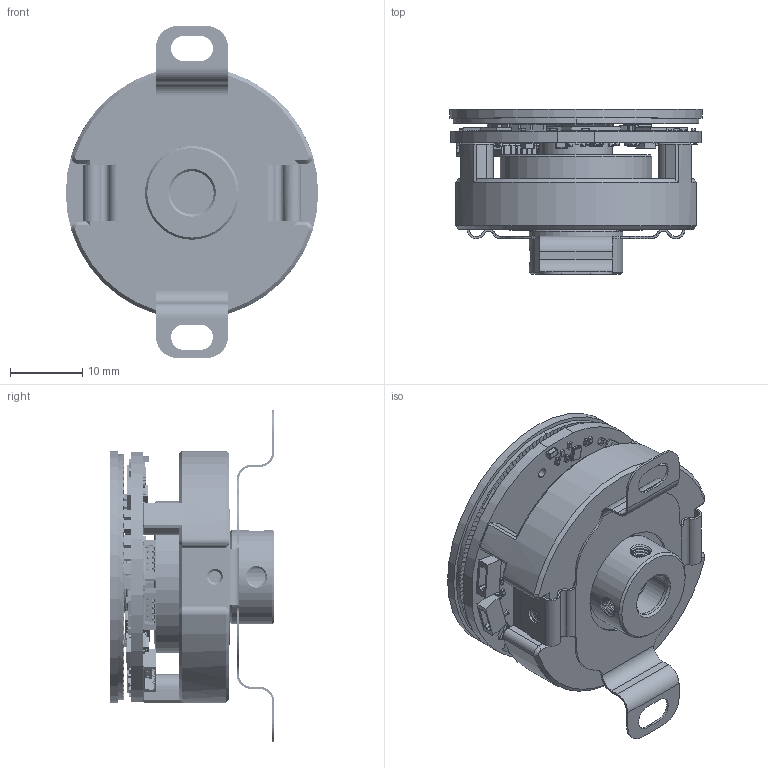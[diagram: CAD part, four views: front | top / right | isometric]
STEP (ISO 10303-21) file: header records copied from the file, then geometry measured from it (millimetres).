
FILE_DESCRIPTION((''),'2;1');
FILE_NAME('EAS-034-H_______ASM_13_ASM','2025-05-26T',('Administrator'),(''),'PRO/ENGINEER BY PARAMETRIC TECHNOLOGY CORPORATION, 2014000','PRO/ENGINEER BY PARAMETRIC TECHNOLOGY CORPORATION, 2014000','');
FILE_SCHEMA(('CONFIG_CONTROL_DESIGN'));
Length unit declared in the file: millimetre
Products named in the file (707): 翋_2___9; PRT0002_1_1_1; PRODUCT_25366_13_1_2_21; 婥_1___4; PRT0003_1_1_4; 码盘_A_1_A_1_ASM; PRT0004_2_5_7; _______ASM_11_ASM_1_ASM_2_ASM_2_ASM; ___________ASM_2_ASM_2_ASM_1_ASM; BOARD_2_1_1; OPEN_CASCADE_STEP_TRANSLAT-1936; OPEN_CASCADE_STEP_TRANSLAT-2409; TERMINAL-1922_ASM_1_ASM_1_ASM_1_ASM; OPEN_CASCADE_STEP_TRANSLAT-2905; MID_BODY-2895_ASM_1_ASM_1_ASM_1_ASM; 828048944_ASM_1_ASM_1_ASM_1_ASM; C50_ASM_2_ASM_1_ASM_1_ASM; MID_BODY-4003_1_1_1; OPEN_CASCADE_STEP_TRANSLAT-4189; TERMINAL-4179_ASM_1_ASM_1_ASM_1_ASM; MARK-4501_1_1_1; 776163760_ASM_1_ASM_1_ASM_1_ASM; ASM0464_ASM_2_ASM_1_ASM_1_ASM; MID_BODY-1198_1_1_1; OPEN_CASCADE_STEP_TRANSLAT-1384; TERMINAL-1374_ASM_1_ASM_1_ASM_1_ASM; MARK-1696_1_1_1; 776163632_ASM_1_ASM_1_ASM_1_ASM; ASM0465_ASM_2_ASM_1_ASM_1_ASM; MID_BODY-4756_1_1_1; OPEN_CASCADE_STEP_TRANSLAT-4942; TERMINAL-4932_ASM_1_ASM_1_ASM_1_ASM; MARK-5254_1_1_1; 776171696_ASM_1_ASM_1_ASM_1_ASM; ASM0466_ASM_2_ASM_1_ASM_1_ASM; OPEN_CASCADE_STEP_TRANSLAT-5494; OPEN_CASCADE_STEP_TRANSLAT-5967; TERMINAL-5480_ASM_1_ASM_1_ASM_1_ASM; OPEN_CASCADE_STEP_TRANSLAT-6463; MID_BODY-6453_ASM_1_ASM_1_ASM_1_ASM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
Assembly tree (809 placements, depth 10):
  EAS-034-H_______ASM_13_ASM
    ___________ASM_2_ASM_2_ASM_1_ASM
      _______ASM_11_ASM_1_ASM_2_ASM_2_ASM
        翋_2___9
        PRT0002_1_1_1  x2
        PRODUCT_25366_13_1_2_21
        码盘_A_1_A_1_ASM
          婥_1___4
          PRT0003_1_1_4
        PRT0004_2_5_7
    PCB_EAS-033_ASM_1_ASM_1_ASM
      PCB_EAS-033-AS-V2_1_2__ASM_1_AS_ASM
        ASM0462_ASM_3_ASM_1_ASM_1_ASM
          BOARD_2_1_1
          C50_ASM_2_ASM_1_ASM_1_ASM
            828048944_ASM_1_ASM_1_ASM_1_ASM
              TERMINAL-1922_ASM_1_ASM_1_ASM_1_ASM
                OPEN_CASCADE_STEP_TRANSLAT-1936
                OPEN_CASCADE_STEP_TRANSLAT-2409
              MID_BODY-2895_ASM_1_ASM_1_ASM_1_ASM
                OPEN_CASCADE_STEP_TRANSLAT-2905
          ASM0464_ASM_2_ASM_1_ASM_1_ASM
            776163760_ASM_1_ASM_1_ASM_1_ASM
              MID_BODY-4003_1_1_1
              TERMINAL-4179_ASM_1_ASM_1_ASM_1_ASM  x2
                OPEN_CASCADE_STEP_TRANSLAT-4189
              MARK-4501_1_1_1
          ASM0465_ASM_2_ASM_1_ASM_1_ASM
            776163632_ASM_1_ASM_1_ASM_1_ASM
              MID_BODY-1198_1_1_1
              TERMINAL-1374_ASM_1_ASM_1_ASM_1_ASM  x2
                OPEN_CASCADE_STEP_TRANSLAT-1384
              MARK-1696_1_1_1
          ASM0466_ASM_2_ASM_1_ASM_1_ASM
            776171696_ASM_1_ASM_1_ASM_1_ASM
              MID_BODY-4756_1_1_1
              TERMINAL-4932_ASM_1_ASM_1_ASM_1_ASM  x2
                OPEN_CASCADE_STEP_TRANSLAT-4942
              MARK-5254_1_1_1
          ASM0467_ASM_2_ASM_1_ASM_1_ASM
            776163504_ASM_1_ASM_1_ASM_1_ASM
              TERMINAL-5480_ASM_1_ASM_1_ASM_1_ASM
                OPEN_CASCADE_STEP_TRANSLAT-5494
                OPEN_CASCADE_STEP_TRANSLAT-5967
              MID_BODY-6453_ASM_1_ASM_1_ASM_1_ASM
                OPEN_CASCADE_STEP_TRANSLAT-6463
          ASM0468_ASM_2_ASM_1_ASM_1_ASM
            PRT0050_3_1_1
          ASM0469_ASM_2_ASM_1_ASM_1_ASM
            PRT0008_1_1
          ASM0470_ASM_2_ASM_1_ASM_1_ASM
            828047920_ASM_1_ASM_1_ASM_1_ASM
              MID_BODY-7056_1_1_1
              TERMINAL-7232_ASM_1_ASM_1_ASM_1_ASM  x2
                OPEN_CASCADE_STEP_TRANSLAT-7242
              MARK-7554_1_1_1
          ASM0471_ASM_2_ASM_1_ASM_1_ASM
            828047792_ASM_1_ASM_1_ASM_1_ASM
              MID_BODY-7781_1_1_1
              TERMINAL-7957_ASM_1_ASM_1_ASM_1_ASM  x2
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Bounding box: 35 x 22.85 x 46 mm (x, y, z)
Volume: 11500.6 mm3; surface area: 14902.2 mm2
Topology: 570 solids, 579 shells, 8889 faces, 22118 edges, 14046 vertices
Faces by surface type: plane 6359, cylinder 1848, sphere 412, bspline 92, extrusion 65, cone 61, torus 52
Entity records: 279741 total; most frequent: CARTESIAN_POINT 59127, DIRECTION 36313, ORIENTED_EDGE 33046, EDGE_CURVE 16523, VECTOR 12539, LINE 12492, AXIS2_PLACEMENT_3D 11887, VERTEX_POINT 10740
